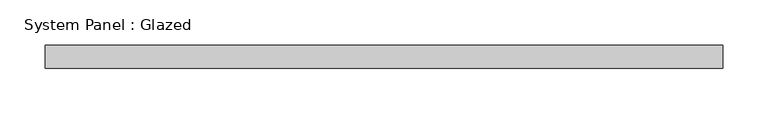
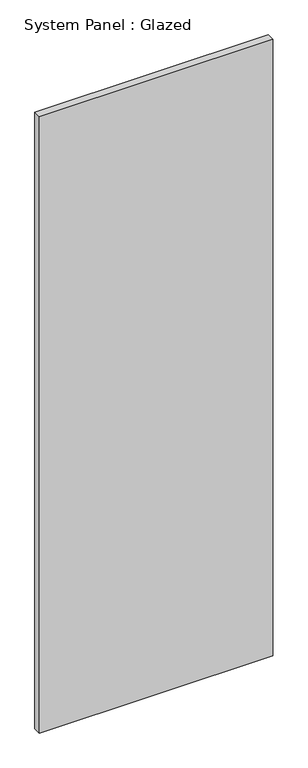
"""IFC4 building model written with IfcOpenShell, lengths in millimetres: plate geometry, System Panel : Glazed."""

from ifc_helpers import new_model, si_unit, origin, origin_with_axes, place, context, project, spatial, polyline, outline, extrude, source, transform, mapped, element, save


def system_panel_glazed_c5ee2139(model_context):
    return source(origin(), model_context, "Body", "SweptSolid", [
        extrude(outline(polyline([(374.8688463, 19.05), (-374.8688463, 19.05), (-374.8688463, 44.45), (374.8688463, 44.45), (374.8688463, 19.05)])), origin_with_axes(), (0.0, 0.0, 1.0), 2095.5),
    ])


if __name__ == "__main__":
    model = new_model("IFC4")
    model_context = context("Model", 3, world=origin())
    ifc_project = project(units=[si_unit("LENGTHUNIT", "METRE", prefix="MILLI")], contexts=[model_context])
    site = spatial("IfcSite", under=ifc_project)
    building = spatial("IfcBuilding", under=site)
    placement = place(None, origin())
    system_panel_glazed_shape = system_panel_glazed_c5ee2139(model_context)
    element("IfcPlate", 1, ObjectType="System Panel : Glazed", at=placement, inside=building, context=model_context, shape_type="MappedRepresentation", body=[
        mapped(system_panel_glazed_shape, transform((0.0, 0.0, 0.0), x_axis=(1.0, 0.0, 0.0), y_axis=(0.0, 1.0, 0.0), z_axis=(0.0, 0.0, 1.0))),
    ])
    save(model, "model.ifc")
